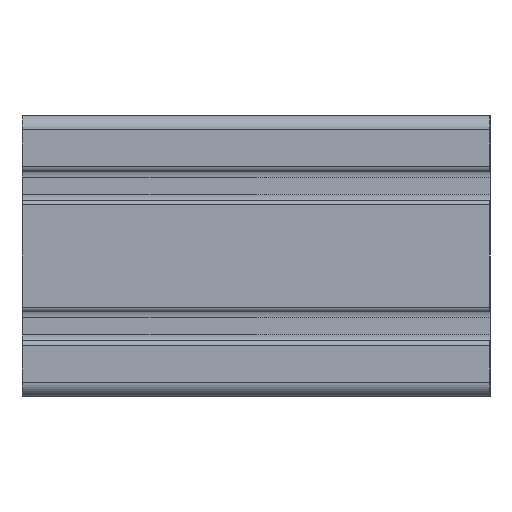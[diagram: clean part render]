
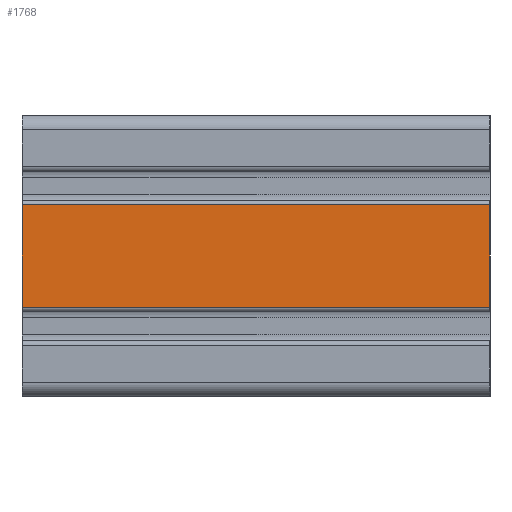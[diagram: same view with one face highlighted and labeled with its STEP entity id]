
A CAD part, left-side view. The second image highlights one B-rep face of the part: STEP entity #1768.
In plain terms, the highlighted planar face has unit normal (-1, 0, 0).
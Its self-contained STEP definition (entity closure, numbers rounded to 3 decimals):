
#539 = VECTOR ( 'NONE', #7109, 1000. ) ;
#899 = VERTEX_POINT ( 'NONE', #10680 ) ;
#1001 = ORIENTED_EDGE ( 'NONE', *, *, #3112, .T. ) ;
#1154 = CARTESIAN_POINT ( 'NONE',  ( -60., 50., -10.9 ) ) ;
#1206 = DIRECTION ( 'NONE',  ( 0., 0., -1. ) ) ;
#1364 = EDGE_CURVE ( 'NONE', #2404, #3200, #5430, .T. ) ;
#1436 = DIRECTION ( 'NONE',  ( 0., 0., 1. ) ) ;
#1445 = ORIENTED_EDGE ( 'NONE', *, *, #2871, .F. ) ;
#1616 = CARTESIAN_POINT ( 'NONE',  ( -60., 50., -10.9 ) ) ;
#1768 = ADVANCED_FACE ( 'NONE', ( #7210 ), #4504, .F. ) ;
#1830 = VECTOR ( 'NONE', #10836, 1000. ) ;
#2404 = VERTEX_POINT ( 'NONE', #8711 ) ;
#2425 = EDGE_CURVE ( 'NONE', #4546, #899, #9571, .T. ) ;
#2871 = EDGE_CURVE ( 'NONE', #4546, #2404, #5144, .T. ) ;
#3112 = EDGE_CURVE ( 'NONE', #899, #3200, #6511, .T. ) ;
#3200 = VERTEX_POINT ( 'NONE', #11219 ) ;
#3602 = EDGE_LOOP ( 'NONE', ( #1001, #9250, #1445, #10486 ) ) ;
#4504 = PLANE ( 'NONE',  #8578 ) ;
#4546 = VERTEX_POINT ( 'NONE', #10832 ) ;
#5085 = DIRECTION ( 'NONE',  ( 0., 0., 1. ) ) ;
#5144 = LINE ( 'NONE', #1616, #7491 ) ;
#5430 = LINE ( 'NONE', #5602, #1830 ) ;
#5602 = CARTESIAN_POINT ( 'NONE',  ( -60., 50., 10.9 ) ) ;
#5714 = CARTESIAN_POINT ( 'NONE',  ( -60., -50., -10.9 ) ) ;
#6511 = LINE ( 'NONE', #5714, #11165 ) ;
#7109 = DIRECTION ( 'NONE',  ( 0., -1., 0. ) ) ;
#7210 = FACE_OUTER_BOUND ( 'NONE', #3602, .T. ) ;
#7491 = VECTOR ( 'NONE', #5085, 1000. ) ;
#8578 = AXIS2_PLACEMENT_3D ( 'NONE', #1154, #9779, #1206 ) ;
#8711 = CARTESIAN_POINT ( 'NONE',  ( -60., 50., 10.9 ) ) ;
#9250 = ORIENTED_EDGE ( 'NONE', *, *, #1364, .F. ) ;
#9571 = LINE ( 'NONE', #10545, #539 ) ;
#9779 = DIRECTION ( 'NONE',  ( 1., 0., 0. ) ) ;
#10486 = ORIENTED_EDGE ( 'NONE', *, *, #2425, .T. ) ;
#10545 = CARTESIAN_POINT ( 'NONE',  ( -60., 50., -10.9 ) ) ;
#10680 = CARTESIAN_POINT ( 'NONE',  ( -60., -50., -10.9 ) ) ;
#10832 = CARTESIAN_POINT ( 'NONE',  ( -60., 50., -10.9 ) ) ;
#10836 = DIRECTION ( 'NONE',  ( 0., -1., 0. ) ) ;
#11165 = VECTOR ( 'NONE', #1436, 1000. ) ;
#11219 = CARTESIAN_POINT ( 'NONE',  ( -60., -50., 10.9 ) ) ;
